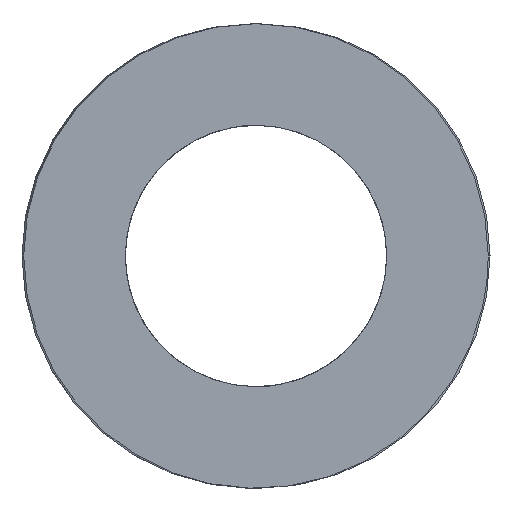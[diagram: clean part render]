
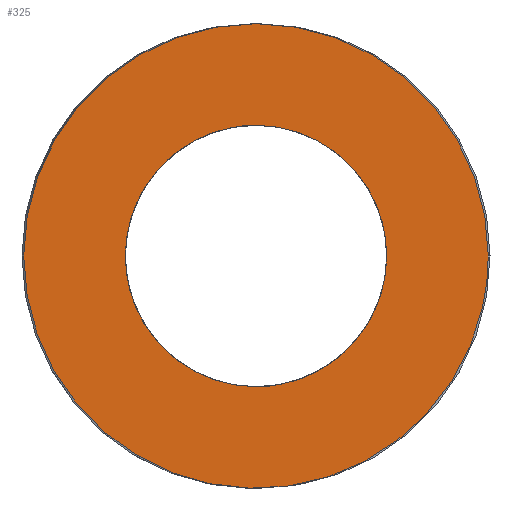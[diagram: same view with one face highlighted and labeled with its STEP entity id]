
A CAD part, left-side view. The second image highlights one B-rep face of the part: STEP entity #325.
In plain terms, the highlighted planar face has unit normal (-1, 0, 0).
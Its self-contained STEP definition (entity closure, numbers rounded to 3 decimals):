
#63=CARTESIAN_POINT('Vertex',(0.,18.75,0.)) ;
#89=CARTESIAN_POINT('Vertex',(0.,-18.75,0.)) ;
#93=CARTESIAN_POINT('Control Point',(0.,18.75,0.)) ;
#94=CARTESIAN_POINT('Control Point',(0.,18.75,-2.945)) ;
#95=CARTESIAN_POINT('Control Point',(0.,18.172,-5.89)) ;
#96=CARTESIAN_POINT('Control Point',(0.,17.015,-8.684)) ;
#97=CARTESIAN_POINT('Control Point',(0.,13.667,-13.667)) ;
#98=CARTESIAN_POINT('Control Point',(0.,8.684,-17.015)) ;
#99=CARTESIAN_POINT('Control Point',(0.,5.89,-18.172)) ;
#100=CARTESIAN_POINT('Control Point',(0.,0.,-19.328)) ;
#101=CARTESIAN_POINT('Control Point',(0.,-5.89,-18.172)) ;
#102=CARTESIAN_POINT('Control Point',(0.,-8.684,-17.015)) ;
#103=CARTESIAN_POINT('Control Point',(0.,-13.667,-13.667)) ;
#104=CARTESIAN_POINT('Control Point',(0.,-17.015,-8.684)) ;
#105=CARTESIAN_POINT('Control Point',(0.,-18.172,-5.89)) ;
#106=CARTESIAN_POINT('Control Point',(0.,-18.75,-2.945)) ;
#107=CARTESIAN_POINT('Control Point',(0.,-18.75,0.)) ;
#121=CARTESIAN_POINT('Axis2P3D Location',(0.,0.,0.)) ;
#256=CARTESIAN_POINT('Axis2P3D Location',(0.,9.375,0.)) ;
#266=CARTESIAN_POINT('Control Point',(0.,0.,-10.55)) ;
#267=CARTESIAN_POINT('Control Point',(0.,0.955,-10.55)) ;
#268=CARTESIAN_POINT('Control Point',(0.,1.909,-10.442)) ;
#269=CARTESIAN_POINT('Control Point',(0.,2.848,-10.226)) ;
#270=CARTESIAN_POINT('Control Point',(0.,4.66,-9.585)) ;
#271=CARTESIAN_POINT('Control Point',(0.,6.283,-8.556)) ;
#272=CARTESIAN_POINT('Control Point',(0.,7.032,-7.952)) ;
#273=CARTESIAN_POINT('Control Point',(0.,8.381,-6.584)) ;
#274=CARTESIAN_POINT('Control Point',(0.,9.391,-4.949)) ;
#275=CARTESIAN_POINT('Control Point',(0.,9.801,-4.077)) ;
#276=CARTESIAN_POINT('Control Point',(0.,10.416,-2.257)) ;
#277=CARTESIAN_POINT('Control Point',(0.,10.61,-0.345)) ;
#278=CARTESIAN_POINT('Control Point',(0.,10.597,0.618)) ;
#279=CARTESIAN_POINT('Control Point',(0.,10.355,2.524)) ;
#280=CARTESIAN_POINT('Control Point',(0.,9.693,4.328)) ;
#281=CARTESIAN_POINT('Control Point',(0.,9.26,5.189)) ;
#282=CARTESIAN_POINT('Control Point',(0.,8.209,6.797)) ;
#283=CARTESIAN_POINT('Control Point',(0.,6.825,8.13)) ;
#284=CARTESIAN_POINT('Control Point',(0.,6.06,8.715)) ;
#285=CARTESIAN_POINT('Control Point',(0.,4.458,9.674)) ;
#286=CARTESIAN_POINT('Control Point',(0.,2.687,10.262)) ;
#287=CARTESIAN_POINT('Control Point',(0.,1.801,10.454)) ;
#288=CARTESIAN_POINT('Control Point',(0.,0.9,10.55)) ;
#289=CARTESIAN_POINT('Control Point',(0.,0.,10.55)) ;
#290=CARTESIAN_POINT('Vertex',(0.,0.,-10.55)) ;
#292=CARTESIAN_POINT('Vertex',(0.,0.,10.55)) ;
#296=CARTESIAN_POINT('Control Point',(0.,0.,10.55)) ;
#297=CARTESIAN_POINT('Control Point',(0.,-0.955,10.55)) ;
#298=CARTESIAN_POINT('Control Point',(0.,-1.909,10.442)) ;
#299=CARTESIAN_POINT('Control Point',(0.,-2.848,10.226)) ;
#300=CARTESIAN_POINT('Control Point',(0.,-4.66,9.585)) ;
#301=CARTESIAN_POINT('Control Point',(0.,-6.283,8.556)) ;
#302=CARTESIAN_POINT('Control Point',(0.,-7.032,7.952)) ;
#303=CARTESIAN_POINT('Control Point',(0.,-8.381,6.584)) ;
#304=CARTESIAN_POINT('Control Point',(0.,-9.391,4.949)) ;
#305=CARTESIAN_POINT('Control Point',(0.,-9.801,4.077)) ;
#306=CARTESIAN_POINT('Control Point',(0.,-10.416,2.257)) ;
#307=CARTESIAN_POINT('Control Point',(0.,-10.61,0.345)) ;
#308=CARTESIAN_POINT('Control Point',(0.,-10.597,-0.618)) ;
#309=CARTESIAN_POINT('Control Point',(0.,-10.355,-2.524)) ;
#310=CARTESIAN_POINT('Control Point',(0.,-9.693,-4.328)) ;
#311=CARTESIAN_POINT('Control Point',(0.,-9.26,-5.189)) ;
#312=CARTESIAN_POINT('Control Point',(0.,-8.209,-6.797)) ;
#313=CARTESIAN_POINT('Control Point',(0.,-6.825,-8.13)) ;
#314=CARTESIAN_POINT('Control Point',(0.,-6.06,-8.715)) ;
#315=CARTESIAN_POINT('Control Point',(0.,-4.458,-9.674)) ;
#316=CARTESIAN_POINT('Control Point',(0.,-2.687,-10.262)) ;
#317=CARTESIAN_POINT('Control Point',(0.,-1.801,-10.454)) ;
#318=CARTESIAN_POINT('Control Point',(0.,-0.9,-10.55)) ;
#319=CARTESIAN_POINT('Control Point',(0.,0.,-10.55)) ;
#122=DIRECTION('Axis2P3D Direction',(1.,-0.,0.)) ;
#257=DIRECTION('Axis2P3D Direction',(-1.,0.,0.)) ;
#258=DIRECTION('Axis2P3D XDirection',(0.,1.,0.)) ;
#123=AXIS2_PLACEMENT_3D('Circle Axis2P3D',#121,#122,$) ;
#259=AXIS2_PLACEMENT_3D('Plane Axis2P3D',#256,#257,#258) ;
#262=ORIENTED_EDGE('',*,*,#108,.T.) ;
#263=ORIENTED_EDGE('',*,*,#125,.T.) ;
#322=ORIENTED_EDGE('',*,*,#294,.T.) ;
#323=ORIENTED_EDGE('',*,*,#320,.T.) ;
#324=FACE_BOUND('',#321,.T.) ;
#325=ADVANCED_FACE('392-B40-127',(#264,#324),#260,.T.) ;
#92=B_SPLINE_CURVE_WITH_KNOTS('',5,(#93,#94,#95,#96,#97,#98,#99,#100,#101,#102,#103,#104,#105,#106,#107),.UNSPECIFIED.,.F.,.U.,(6,3,3,3,6),(-29.452,-14.726,0.,14.726,29.452),.UNSPECIFIED.) ;
#265=B_SPLINE_CURVE_WITH_KNOTS('',5,(#266,#267,#268,#269,#270,#271,#272,#273,#274,#275,#276,#277,#278,#279,#280,#281,#282,#283,#284,#285,#286,#287,#288,#289),.UNSPECIFIED.,.F.,.U.,(6,3,3,3,3,3,3,6),(0.,6.751,13.502,20.253,27.004,33.755,40.506,46.872),.UNSPECIFIED.) ;
#295=B_SPLINE_CURVE_WITH_KNOTS('',5,(#296,#297,#298,#299,#300,#301,#302,#303,#304,#305,#306,#307,#308,#309,#310,#311,#312,#313,#314,#315,#316,#317,#318,#319),.UNSPECIFIED.,.F.,.U.,(6,3,3,3,3,3,3,6),(0.,6.751,13.502,20.253,27.004,33.755,40.506,46.872),.UNSPECIFIED.) ;
#124=CIRCLE('generated circle',#123,18.75) ;
#108=EDGE_CURVE('',#64,#90,#92,.T.) ;
#125=EDGE_CURVE('',#90,#64,#124,.F.) ;
#294=EDGE_CURVE('',#291,#293,#265,.T.) ;
#320=EDGE_CURVE('',#293,#291,#295,.T.) ;
#261=EDGE_LOOP('',(#262,#263)) ;
#321=EDGE_LOOP('',(#322,#323)) ;
#264=FACE_OUTER_BOUND('',#261,.T.) ;
#260=PLANE('Plane',#259) ;
#64=VERTEX_POINT('',#63) ;
#90=VERTEX_POINT('',#89) ;
#291=VERTEX_POINT('',#290) ;
#293=VERTEX_POINT('',#292) ;
